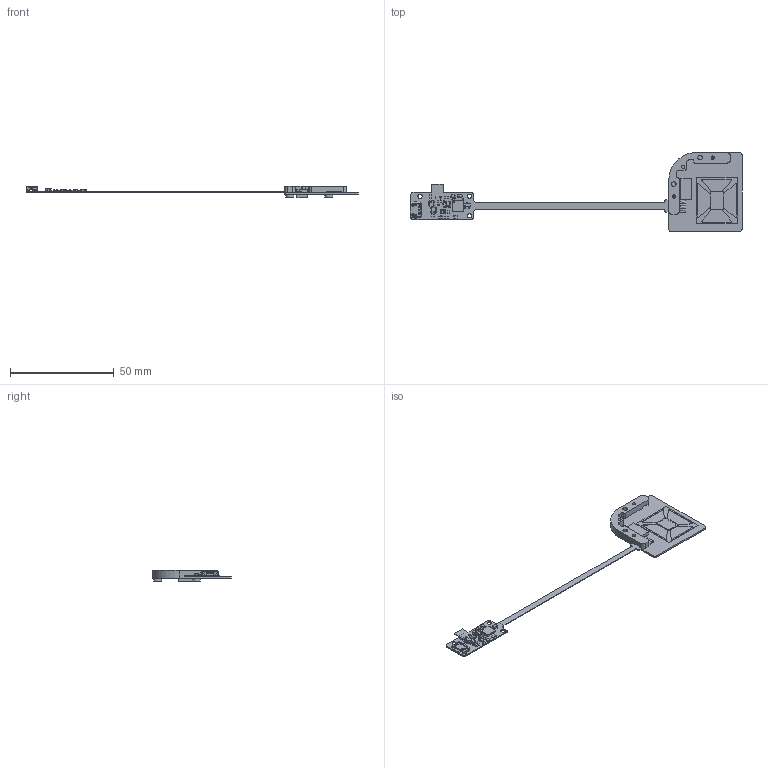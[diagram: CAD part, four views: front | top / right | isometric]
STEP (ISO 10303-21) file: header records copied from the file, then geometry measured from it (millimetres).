
FILE_DESCRIPTION (( 'STEP AP203' ), '1' );
FILE_NAME ('184-281-00_ENV__Rev- 0-00.step', '2025-02-05T11:18:48', ( '' ), ( '' ), 'SwSTEP 2.0', 'SolidWorks 2024', '' );
FILE_SCHEMA (( 'CONFIG_CONTROL_DESIGN' ));
Length unit declared in the file: millimetre
Products named in the file (1): 184-281-00_ENV__Rev- 0-00
Bounding box: 159.68 x 37.85 x 5.7 mm (x, y, z)
Volume: 2352.9 mm3; surface area: 5683.9 mm2
Topology: 183 solids, 183 shells, 2494 faces, 5766 edges, 3606 vertices
Faces by surface type: plane 1551, cylinder 592, torus 246, bspline 82, sphere 21, cone 2
Full cylindrical faces by diameter (mm): 0.4 x3, 0.6 x4, 1.6 x2, 2.1 x3, 2.2 x2, 3.8 x2
Entity records: 70452 total; most frequent: CARTESIAN_POINT 14026, DIRECTION 11725, ORIENTED_EDGE 11414, EDGE_CURVE 5707, VECTOR 4085, LINE 4085, AXIS2_PLACEMENT_3D 3820, VERTEX_POINT 3601
